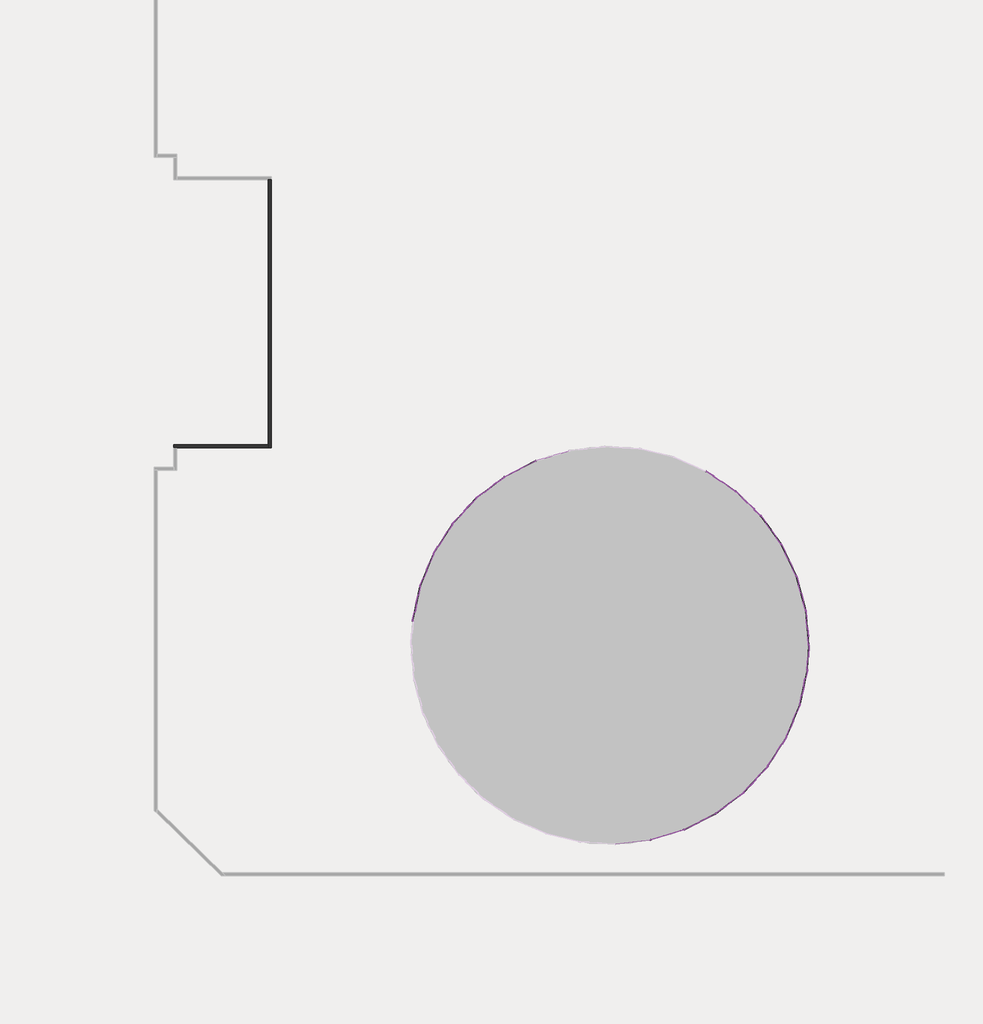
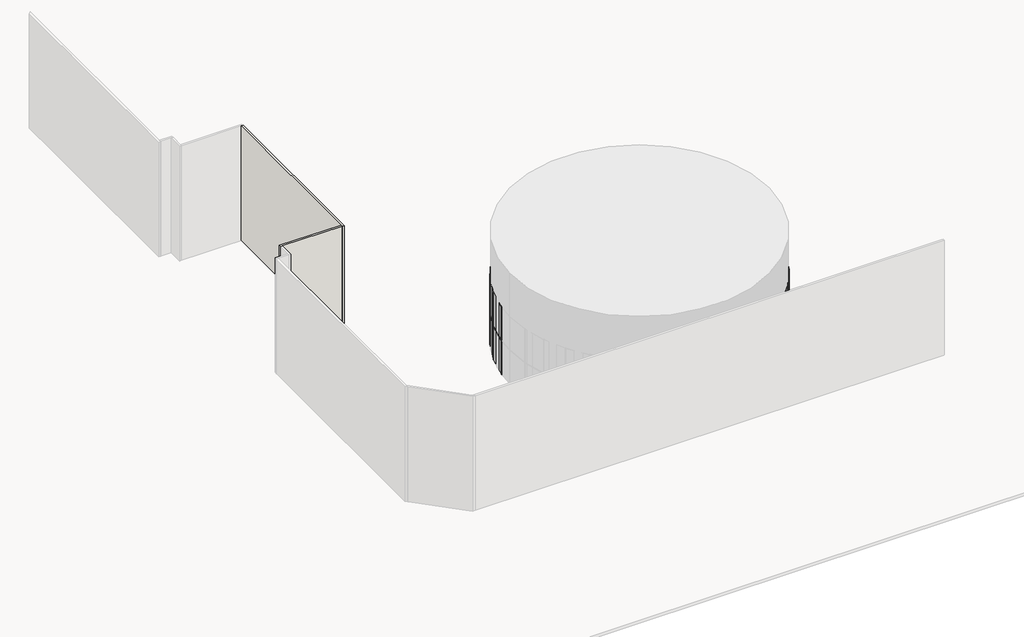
# One storey, part 2 of 4: 64 members, 40 plates, 2 walls.
"""IFC4 building model written with IfcOpenShell, lengths in millimetres."""

from ifc_helpers import new_model, si_unit, origin, place, context, project, spatial, faceted_brep, transform, mapped, element, save
from components import member_37831322, member_0f460398, member_e3690c8c, member_018dfd5b, plate_d439ce56, plate_01dbb522, plate_4c41d92a, plate_ebbde56a, plate_f02ba564, plate_a57f398c

model = new_model("IFC4")

# Units and contexts
model_context = context("Model", 3, world=origin())
ifc_project = project(units=[si_unit("LENGTHUNIT", "METRE", prefix="MILLI")], contexts=[model_context])

# Site, building, storey
site = spatial("IfcSite", under=ifc_project)
building = spatial("IfcBuilding", under=site)
storey = spatial("IfcBuildingStorey", under=building, Name="樓層 1", Elevation=0.0)

# Members
placement = place(None, origin())
member_shape = member_37831322(model_context)
element("IfcMember", 1, ObjectType="圓形豎框 : 25mm 半徑", at=placement, inside=storey, context=model_context, shape_type="MappedRepresentation", body=[
    mapped(member_shape, transform((-1710.0018523, -15272.7850723, 2800.0), x_axis=(-0.17664179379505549, 0.984275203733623, 0.0), y_axis=(0.984275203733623, 0.17664179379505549, 0.0), z_axis=(0.0, 0.0, -1.0))),
])
element("IfcMember", 2, ObjectType="圓形豎框 : 25mm 半徑", at=placement, inside=storey, context=model_context, shape_type="MappedRepresentation", body=[
    mapped(member_shape, transform((-2183.8011895, -13536.2614796, 2800.0), x_axis=(-0.3477282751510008, 0.9375953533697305, 0.0), y_axis=(0.9375953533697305, 0.3477282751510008, 0.0), z_axis=(0.0, 0.0, -1.0))),
])
element("IfcMember", 3, ObjectType="圓形豎框 : 25mm 半徑", at=placement, inside=storey, context=model_context, shape_type="MappedRepresentation", body=[
    mapped(member_shape, transform((-2956.892771, -11910.7371314, 2800.0), x_axis=(-0.5078788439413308, 0.8614285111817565, 0.0), y_axis=(0.8614285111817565, 0.5078788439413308, 0.0), z_axis=(0.0, 0.0, -1.0))),
])
element("IfcMember", 4, ObjectType="圓形豎框 : 25mm 半徑", at=placement, inside=storey, context=model_context, shape_type="MappedRepresentation", body=[
    mapped(member_shape, transform((-4004.9631816, -10447.3341061, 2800.0), x_axis=(-0.6520568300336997, 0.7581700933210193, 0.0), y_axis=(0.7581700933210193, 0.6520568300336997, 0.0), z_axis=(0.0, 0.0, -1.0))),
])
element("IfcMember", 5, ObjectType="圓形豎框 : 25mm 半徑", at=placement, inside=storey, context=model_context, shape_type="MappedRepresentation", body=[
    mapped(member_shape, transform((-5295.0510339, -9192.0758326, 2800.0), x_axis=(-0.7757278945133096, 0.6310675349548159, 0.0), y_axis=(0.6310675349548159, 0.7757278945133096, 0.0), z_axis=(0.0, 0.0, -1.0))),
])
element("IfcMember", 6, ObjectType="圓形豎框 : 25mm 半徑", at=placement, inside=storey, context=model_context, shape_type="MappedRepresentation", body=[
    mapped(member_shape, transform((-6786.5835908, -8184.4396721, 2800.0), x_axis=(-0.8750026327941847, 0.48411815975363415, 0.0), y_axis=(0.48411815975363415, 0.8750026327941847, 0.0), z_axis=(0.0, 0.0, -1.0))),
])
element("IfcMember", 7, ObjectType="圓形豎框 : 25mm 半徑", at=placement, inside=storey, context=model_context, shape_type="MappedRepresentation", body=[
    mapped(member_shape, transform((-15488.8767673, -7649.2610767, 2800.0), x_axis=(-0.9277297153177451, -0.373252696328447, 0.0), y_axis=(-0.373252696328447, 0.9277297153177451, 0.0), z_axis=(0.0, 0.0, -1.0))),
])
element("IfcMember", 8, ObjectType="圓形豎框 : 25mm 半徑", at=placement, inside=storey, context=model_context, shape_type="MappedRepresentation", body=[
    mapped(member_shape, transform((-17092.6390573, -8466.5410271, 2800.0), x_axis=(-0.8472093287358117, -0.5312592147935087, 0.0), y_axis=(-0.5312592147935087, 0.8472093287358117, 0.0), z_axis=(0.0, 0.0, -1.0))),
])
element("IfcMember", 9, ObjectType="圓形豎框 : 25mm 半徑", at=placement, inside=storey, context=model_context, shape_type="MappedRepresentation", body=[
    mapped(member_shape, transform((-18526.8167155, -9554.2608645, 2800.0), x_axis=(-0.7400445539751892, -0.6725578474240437, 0.0), y_axis=(-0.6725578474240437, 0.7400445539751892, 0.0), z_axis=(0.0, 0.0, -1.0))),
])
element("IfcMember", 10, ObjectType="圓形豎框 : 25mm 半徑", at=placement, inside=storey, context=model_context, shape_type="MappedRepresentation", body=[
    mapped(member_shape, transform((-19746.305439, -10878.2122432, 2800.0), x_axis=(-0.6096056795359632, -0.7927048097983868, 0.0), y_axis=(-0.7927048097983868, 0.6096056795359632, 0.0), z_axis=(0.0, 0.0, -1.0))),
])
element("IfcMember", 11, ObjectType="圓形豎框 : 25mm 半徑", at=placement, inside=storey, context=model_context, shape_type="MappedRepresentation", body=[
    mapped(member_shape, transform((-20712.7528044, -12396.7574319, 2800.0), x_axis=(-0.4599949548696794, -0.8879215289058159, 0.0), y_axis=(-0.8879215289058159, 0.4599949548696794, 0.0), z_axis=(0.0, 0.0, -1.0))),
])
element("IfcMember", 12, ObjectType="圓形豎框 : 25mm 半徑", at=placement, inside=storey, context=model_context, shape_type="MappedRepresentation", body=[
    mapped(member_shape, transform((-21395.7644357, -14062.1388031, 2800.0), x_axis=(-0.29591757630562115, -0.9552134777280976, 0.0), y_axis=(-0.9552134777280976, 0.29591757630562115, 0.0), z_axis=(0.0, 0.0, -1.0))),
])
element("IfcMember", 13, ObjectType="圓形豎框 : 25mm 半徑", at=placement, inside=storey, context=model_context, shape_type="MappedRepresentation", body=[
    mapped(member_shape, transform((-21773.8598955, -15821.9807912, 2800.0), x_axis=(-0.12253371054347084, -0.992464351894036, 0.0), y_axis=(-0.992464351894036, 0.12253371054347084, 0.0), z_axis=(0.0, 0.0, -1.0))),
])
element("IfcMember", 14, ObjectType="圓形豎框 : 25mm 半徑", at=placement, inside=storey, context=model_context, shape_type="MappedRepresentation", body=[
    mapped(member_shape, transform((-9634.7745786, -27003.2657656, 2800.0), x_axis=(0.9790733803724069, 0.203507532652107, 0.0), y_axis=(0.203507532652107, -0.9790733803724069, 0.0), z_axis=(0.0, 0.0, -1.0))),
])
element("IfcMember", 15, ObjectType="圓形豎框 : 25mm 半徑", at=placement, inside=storey, context=model_context, shape_type="MappedRepresentation", body=[
    mapped(member_shape, transform((-7911.8653274, -26482.1288236, 2800.0), x_axis=(0.9277297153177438, 0.37325269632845, 0.0), y_axis=(0.37325269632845, -0.9277297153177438, 0.0), z_axis=(0.0, 0.0, -1.0))),
])
element("IfcMember", 16, ObjectType="圓形豎框 : 25mm 半徑", at=placement, inside=storey, context=model_context, shape_type="MappedRepresentation", body=[
    mapped(member_shape, transform((-6308.1030374, -25664.8488732, 2800.0), x_axis=(0.8472093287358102, 0.5312592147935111, 0.0), y_axis=(0.5312592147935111, -0.8472093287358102, 0.0), z_axis=(0.0, 0.0, -1.0))),
])
element("IfcMember", 17, ObjectType="圓形豎框 : 25mm 半徑", at=placement, inside=storey, context=model_context, shape_type="MappedRepresentation", body=[
    mapped(member_shape, transform((-4873.9253792, -24577.1290358, 2800.0), x_axis=(0.7400445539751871, 0.672557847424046, 0.0), y_axis=(0.672557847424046, -0.7400445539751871, 0.0), z_axis=(0.0, 0.0, -1.0))),
])
element("IfcMember", 18, ObjectType="圓形豎框 : 25mm 半徑", at=placement, inside=storey, context=model_context, shape_type="MappedRepresentation", body=[
    mapped(member_shape, transform((-3654.4366557, -23253.1776571, 2800.0), x_axis=(0.6096056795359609, 0.7927048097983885, 0.0), y_axis=(0.7927048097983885, -0.6096056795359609, 0.0), z_axis=(0.0, 0.0, -1.0))),
])
element("IfcMember", 19, ObjectType="圓形豎框 : 25mm 半徑", at=placement, inside=storey, context=model_context, shape_type="MappedRepresentation", body=[
    mapped(member_shape, transform((-2687.9892904, -21734.6324684, 2800.0), x_axis=(0.4599949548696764, 0.8879215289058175, 0.0), y_axis=(0.8879215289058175, -0.4599949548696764, 0.0), z_axis=(0.0, 0.0, -1.0))),
])
element("IfcMember", 20, ObjectType="圓形豎框 : 25mm 半徑", at=placement, inside=storey, context=model_context, shape_type="MappedRepresentation", body=[
    mapped(member_shape, transform((-2004.977659, -20069.2510972, 2800.0), x_axis=(0.2959175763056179, 0.9552134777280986, 0.0), y_axis=(0.9552134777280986, -0.2959175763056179, 0.0), z_axis=(0.0, 0.0, -1.0))),
])
element("IfcMember", 21, ObjectType="圓形豎框 : 25mm 半徑", at=placement, inside=storey, context=model_context, shape_type="MappedRepresentation", body=[
    mapped(member_shape, transform((-1626.8821992, -18309.4091091, 2800.0), x_axis=(0.12253371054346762, 0.9924643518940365, 0.0), y_axis=(0.9924643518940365, -0.12253371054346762, 0.0), z_axis=(0.0, 0.0, -1.0))),
])
member_2_shape = member_0f460398(model_context)
element("IfcMember", 22, ObjectType="圓形豎框 : 25mm 半徑", at=placement, inside=storey, context=model_context, shape_type="MappedRepresentation", body=[
    mapped(member_2_shape, transform((-2177.2206431, -13560.3798628, 2800.0), x_axis=(0.0, 0.0, 1.0), y_axis=(0.9647353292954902, 0.2632218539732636, 0.0), z_axis=(-0.2632218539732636, 0.9647353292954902, 0.0))),
])
element("IfcMember", 23, ObjectType="圓形豎框 : 25mm 半徑", at=placement, inside=storey, context=model_context, shape_type="MappedRepresentation", body=[
    mapped(member_2_shape, transform((-2946.1553879, -11933.3138584, 2800.0), x_axis=(0.0, 0.0, 1.0), y_axis=(0.9030690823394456, 0.42949532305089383, 0.0), z_axis=(-0.42949532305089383, 0.9030690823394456, 0.0))),
])
element("IfcMember", 24, ObjectType="圓形豎框 : 25mm 半徑", at=placement, inside=storey, context=model_context, shape_type="MappedRepresentation", body=[
    mapped(member_2_shape, transform((-3990.4066481, -10467.6591481, 2800.0), x_axis=(0.0, 0.0, 1.0), y_axis=(0.8130016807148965, 0.5822613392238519, 0.0), z_axis=(-0.5822613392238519, 0.8130016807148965, 0.0))),
])
element("IfcMember", 25, ObjectType="圓形豎框 : 25mm 半徑", at=placement, inside=storey, context=model_context, shape_type="MappedRepresentation", body=[
    mapped(member_2_shape, transform((-5277.1331471, -9209.5099753, 2800.0), x_axis=(0.0, 0.0, 1.0), y_axis=(0.6973657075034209, 0.7167154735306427, 0.0), z_axis=(-0.7167154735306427, 0.6973657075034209, 0.0))),
])
element("IfcMember", 26, ObjectType="圓形豎框 : 25mm 半徑", at=placement, inside=storey, context=model_context, shape_type="MappedRepresentation", body=[
    mapped(member_2_shape, transform((-6765.8678608, -8198.4346188, 2800.0), x_axis=(0.0, 0.0, 1.0), y_axis=(0.5597978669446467, 0.8286291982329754, 0.0), z_axis=(-0.8286291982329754, 0.5597978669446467, 0.0))),
])
element("IfcMember", 27, ObjectType="圓形豎框 : 25mm 半徑", at=placement, inside=storey, context=model_context, shape_type="MappedRepresentation", body=[
    mapped(member_2_shape, transform((-15464.9474722, -7642.0230636, 2800.0), x_axis=(0.0, 0.0, 1.0), y_axis=(-0.2895205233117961, 0.9571718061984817, 0.0), z_axis=(-0.9571718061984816, -0.28952052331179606, 0.0))),
])
element("IfcMember", 28, ObjectType="圓形豎框 : 25mm 半徑", at=placement, inside=storey, context=model_context, shape_type="MappedRepresentation", body=[
    mapped(member_2_shape, transform((-17070.364581, -8455.1899167, 2800.0), x_axis=(0.0, 0.0, 1.0), y_axis=(-0.4540444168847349, 0.8909790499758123, 0.0), z_axis=(-0.8909790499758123, -0.4540444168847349, 0.0))),
])
element("IfcMember", 29, ObjectType="圓形豎框 : 25mm 半徑", at=placement, inside=storey, context=model_context, shape_type="MappedRepresentation", body=[
    mapped(member_2_shape, transform((-18506.8975814, -9539.1536446, 2800.0), x_axis=(0.0, 0.0, 1.0), y_axis=(-0.6042887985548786, 0.796765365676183, 0.0), z_axis=(-0.7967653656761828, -0.6042887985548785, 0.0))),
])
element("IfcMember", 30, ObjectType="圓形豎框 : 25mm 半徑", at=placement, inside=storey, context=model_context, shape_type="MappedRepresentation", body=[
    mapped(member_2_shape, transform((-19729.3680956, -10859.8240297, 2800.0), x_axis=(0.0, 0.0, 1.0), y_axis=(-0.7355285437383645, 0.677493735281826, 0.0), z_axis=(-0.677493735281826, -0.7355285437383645, 0.0))),
])
element("IfcMember", 31, ObjectType="圓形豎框 : 25mm 半徑", at=placement, inside=storey, context=model_context, shape_type="MappedRepresentation", body=[
    mapped(member_2_shape, transform((-20699.3299243, -12375.6665265, 2800.0), x_axis=(0.0, 0.0, 1.0), y_axis=(-0.8436362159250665, 0.5369152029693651, 0.0), z_axis=(-0.5369152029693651, -0.8436362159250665, 0.0))),
])
element("IfcMember", 32, ObjectType="圓形豎框 : 25mm 半徑", at=placement, inside=storey, context=model_context, shape_type="MappedRepresentation", body=[
    mapped(member_2_shape, transform((-21386.278163, -14039.0085063, 2800.0), x_axis=(0.0, 0.0, 1.0), y_axis=(-0.9252118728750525, 0.37945090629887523, 0.0), z_axis=(-0.37945090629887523, -0.9252118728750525, 0.0))),
])
element("IfcMember", 33, ObjectType="圓形豎框 : 25mm 半徑", at=placement, inside=storey, context=model_context, shape_type="MappedRepresentation", body=[
    mapped(member_2_shape, transform((-21768.6085697, -15797.5385414, 2800.0), x_axis=(0.0, 0.0, 1.0), y_axis=(-0.9776899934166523, 0.2100530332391, 0.0), z_axis=(-0.2100530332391, -0.9776899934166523, 0.0))),
])
element("IfcMember", 34, ObjectType="圓形豎框 : 25mm 半徑", at=placement, inside=storey, context=model_context, shape_type="MappedRepresentation", body=[
    mapped(member_2_shape, transform((-9659.606126, -27006.1630487, 2800.0), x_axis=(0.0, 0.0, 1.0), y_axis=(0.11589132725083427, -0.9932618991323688, 0.0), z_axis=(0.9932618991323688, 0.11589132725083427, 0.0))),
])
element("IfcMember", 35, ObjectType="圓形豎框 : 25mm 半徑", at=placement, inside=storey, context=model_context, shape_type="MappedRepresentation", body=[
    mapped(member_2_shape, transform((-7935.7946226, -26489.3668367, 2800.0), x_axis=(0.0, 0.0, 1.0), y_axis=(0.2895205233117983, -0.9571718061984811, 0.0), z_axis=(0.9571718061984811, 0.2895205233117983, 0.0))),
])
element("IfcMember", 36, ObjectType="圓形豎框 : 25mm 半徑", at=placement, inside=storey, context=model_context, shape_type="MappedRepresentation", body=[
    mapped(member_2_shape, transform((-6330.3775137, -25676.1999836, 2800.0), x_axis=(0.0, 0.0, 1.0), y_axis=(0.45404441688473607, -0.8909790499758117, 0.0), z_axis=(0.8909790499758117, 0.45404441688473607, 0.0))),
])
element("IfcMember", 37, ObjectType="圓形豎框 : 25mm 半徑", at=placement, inside=storey, context=model_context, shape_type="MappedRepresentation", body=[
    mapped(member_2_shape, transform((-4893.8445134, -24592.2362558, 2800.0), x_axis=(0.0, 0.0, 1.0), y_axis=(0.6042887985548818, -0.7967653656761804, 0.0), z_axis=(0.7967653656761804, 0.6042887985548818, 0.0))),
])
element("IfcMember", 38, ObjectType="圓形豎框 : 25mm 半徑", at=placement, inside=storey, context=model_context, shape_type="MappedRepresentation", body=[
    mapped(member_2_shape, transform((-3671.3739991, -23271.5658707, 2800.0), x_axis=(0.0, 0.0, 1.0), y_axis=(0.7355285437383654, -0.677493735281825, 0.0), z_axis=(0.677493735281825, 0.7355285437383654, 0.0))),
])
element("IfcMember", 39, ObjectType="圓形豎框 : 25mm 半徑", at=placement, inside=storey, context=model_context, shape_type="MappedRepresentation", body=[
    mapped(member_2_shape, transform((-2701.4121705, -21755.7233738, 2800.0), x_axis=(0.0, 0.0, 1.0), y_axis=(0.8436362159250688, -0.5369152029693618, 0.0), z_axis=(0.5369152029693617, 0.8436362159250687, 0.0))),
])
element("IfcMember", 40, ObjectType="圓形豎框 : 25mm 半徑", at=placement, inside=storey, context=model_context, shape_type="MappedRepresentation", body=[
    mapped(member_2_shape, transform((-2014.4639317, -20092.3813941, 2800.0), x_axis=(0.0, 0.0, 1.0), y_axis=(0.9252118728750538, -0.379450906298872, 0.0), z_axis=(0.37945090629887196, 0.9252118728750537, 0.0))),
])
element("IfcMember", 41, ObjectType="圓形豎框 : 25mm 半徑", at=placement, inside=storey, context=model_context, shape_type="MappedRepresentation", body=[
    mapped(member_2_shape, transform((-1632.133525, -18333.8513589, 2800.0), x_axis=(0.0, 0.0, 1.0), y_axis=(0.9776899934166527, -0.2100530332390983, 0.0), z_axis=(0.2100530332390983, 0.9776899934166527, 0.0))),
])
element("IfcMember", 42, ObjectType="圓形豎框 : 25mm 半徑", at=placement, inside=storey, context=model_context, shape_type="MappedRepresentation", body=[
    mapped(member_shape, transform((-1710.0018523, -15272.7850723, 0.0), x_axis=(-0.17664179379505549, 0.984275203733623, 0.0), y_axis=(0.984275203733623, 0.17664179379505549, 0.0), z_axis=(0.0, 0.0, -1.0))),
])
element("IfcMember", 43, ObjectType="圓形豎框 : 25mm 半徑", at=placement, inside=storey, context=model_context, shape_type="MappedRepresentation", body=[
    mapped(member_shape, transform((-2183.8011895, -13536.2614796, 0.0), x_axis=(-0.3477282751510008, 0.9375953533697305, 0.0), y_axis=(0.9375953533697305, 0.3477282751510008, 0.0), z_axis=(0.0, 0.0, -1.0))),
])
element("IfcMember", 44, ObjectType="圓形豎框 : 25mm 半徑", at=placement, inside=storey, context=model_context, shape_type="MappedRepresentation", body=[
    mapped(member_shape, transform((-2956.892771, -11910.7371314, 0.0), x_axis=(-0.5078788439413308, 0.8614285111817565, 0.0), y_axis=(0.8614285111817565, 0.5078788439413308, 0.0), z_axis=(0.0, 0.0, -1.0))),
])
element("IfcMember", 45, ObjectType="圓形豎框 : 25mm 半徑", at=placement, inside=storey, context=model_context, shape_type="MappedRepresentation", body=[
    mapped(member_shape, transform((-4004.9631816, -10447.3341061, 0.0), x_axis=(-0.6520568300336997, 0.7581700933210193, 0.0), y_axis=(0.7581700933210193, 0.6520568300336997, 0.0), z_axis=(0.0, 0.0, -1.0))),
])
element("IfcMember", 46, ObjectType="圓形豎框 : 25mm 半徑", at=placement, inside=storey, context=model_context, shape_type="MappedRepresentation", body=[
    mapped(member_shape, transform((-5295.0510339, -9192.0758326, 0.0), x_axis=(-0.7757278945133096, 0.6310675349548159, 0.0), y_axis=(0.6310675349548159, 0.7757278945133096, 0.0), z_axis=(0.0, 0.0, -1.0))),
])
element("IfcMember", 47, ObjectType="圓形豎框 : 25mm 半徑", at=placement, inside=storey, context=model_context, shape_type="MappedRepresentation", body=[
    mapped(member_shape, transform((-6786.5835908, -8184.4396721, 0.0), x_axis=(-0.8750026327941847, 0.48411815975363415, 0.0), y_axis=(0.48411815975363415, 0.8750026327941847, 0.0), z_axis=(0.0, 0.0, -1.0))),
])
element("IfcMember", 48, ObjectType="圓形豎框 : 25mm 半徑", at=placement, inside=storey, context=model_context, shape_type="MappedRepresentation", body=[
    mapped(member_shape, transform((-15488.8767673, -7649.2610767, 0.0), x_axis=(-0.9277297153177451, -0.373252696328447, 0.0), y_axis=(-0.373252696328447, 0.9277297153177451, 0.0), z_axis=(0.0, 0.0, -1.0))),
])
element("IfcMember", 49, ObjectType="圓形豎框 : 25mm 半徑", at=placement, inside=storey, context=model_context, shape_type="MappedRepresentation", body=[
    mapped(member_shape, transform((-17092.6390573, -8466.5410271, 0.0), x_axis=(-0.8472093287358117, -0.5312592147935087, 0.0), y_axis=(-0.5312592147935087, 0.8472093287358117, 0.0), z_axis=(0.0, 0.0, -1.0))),
])
element("IfcMember", 50, ObjectType="圓形豎框 : 25mm 半徑", at=placement, inside=storey, context=model_context, shape_type="MappedRepresentation", body=[
    mapped(member_shape, transform((-18526.8167155, -9554.2608645, 0.0), x_axis=(-0.7400445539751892, -0.6725578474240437, 0.0), y_axis=(-0.6725578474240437, 0.7400445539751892, 0.0), z_axis=(0.0, 0.0, -1.0))),
])
element("IfcMember", 51, ObjectType="圓形豎框 : 25mm 半徑", at=placement, inside=storey, context=model_context, shape_type="MappedRepresentation", body=[
    mapped(member_shape, transform((-19746.305439, -10878.2122432, 0.0), x_axis=(-0.6096056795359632, -0.7927048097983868, 0.0), y_axis=(-0.7927048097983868, 0.6096056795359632, 0.0), z_axis=(0.0, 0.0, -1.0))),
])
element("IfcMember", 52, ObjectType="圓形豎框 : 25mm 半徑", at=placement, inside=storey, context=model_context, shape_type="MappedRepresentation", body=[
    mapped(member_shape, transform((-20712.7528044, -12396.7574319, 0.0), x_axis=(-0.4599949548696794, -0.8879215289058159, 0.0), y_axis=(-0.8879215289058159, 0.4599949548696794, 0.0), z_axis=(0.0, 0.0, -1.0))),
])
element("IfcMember", 53, ObjectType="圓形豎框 : 25mm 半徑", at=placement, inside=storey, context=model_context, shape_type="MappedRepresentation", body=[
    mapped(member_shape, transform((-21395.7644357, -14062.1388031, 0.0), x_axis=(-0.29591757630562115, -0.9552134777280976, 0.0), y_axis=(-0.9552134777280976, 0.29591757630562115, 0.0), z_axis=(0.0, 0.0, -1.0))),
])
element("IfcMember", 54, ObjectType="圓形豎框 : 25mm 半徑", at=placement, inside=storey, context=model_context, shape_type="MappedRepresentation", body=[
    mapped(member_shape, transform((-21773.8598955, -15821.9807912, 0.0), x_axis=(-0.12253371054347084, -0.992464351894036, 0.0), y_axis=(-0.992464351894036, 0.12253371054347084, 0.0), z_axis=(0.0, 0.0, -1.0))),
])
element("IfcMember", 55, ObjectType="圓形豎框 : 25mm 半徑", at=placement, inside=storey, context=model_context, shape_type="MappedRepresentation", body=[
    mapped(member_shape, transform((-9634.7745786, -27003.2657656, 0.0), x_axis=(0.9790733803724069, 0.203507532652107, 0.0), y_axis=(0.203507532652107, -0.9790733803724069, 0.0), z_axis=(0.0, 0.0, -1.0))),
])
element("IfcMember", 56, ObjectType="圓形豎框 : 25mm 半徑", at=placement, inside=storey, context=model_context, shape_type="MappedRepresentation", body=[
    mapped(member_shape, transform((-7911.8653274, -26482.1288236, 0.0), x_axis=(0.9277297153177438, 0.37325269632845, 0.0), y_axis=(0.37325269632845, -0.9277297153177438, 0.0), z_axis=(0.0, 0.0, -1.0))),
])
element("IfcMember", 57, ObjectType="圓形豎框 : 25mm 半徑", at=placement, inside=storey, context=model_context, shape_type="MappedRepresentation", body=[
    mapped(member_shape, transform((-6308.1030374, -25664.8488732, 0.0), x_axis=(0.8472093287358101, 0.5312592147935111, 0.0), y_axis=(0.5312592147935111, -0.8472093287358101, 0.0), z_axis=(0.0, 0.0, -1.0))),
])
element("IfcMember", 58, ObjectType="圓形豎框 : 25mm 半徑", at=placement, inside=storey, context=model_context, shape_type="MappedRepresentation", body=[
    mapped(member_shape, transform((-4873.9253792, -24577.1290358, 0.0), x_axis=(0.7400445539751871, 0.672557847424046, 0.0), y_axis=(0.672557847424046, -0.7400445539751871, 0.0), z_axis=(0.0, 0.0, -1.0))),
])
element("IfcMember", 59, ObjectType="圓形豎框 : 25mm 半徑", at=placement, inside=storey, context=model_context, shape_type="MappedRepresentation", body=[
    mapped(member_shape, transform((-3654.4366557, -23253.1776571, 0.0), x_axis=(0.6096056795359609, 0.7927048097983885, 0.0), y_axis=(0.7927048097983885, -0.6096056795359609, 0.0), z_axis=(0.0, 0.0, -1.0))),
])
element("IfcMember", 60, ObjectType="圓形豎框 : 25mm 半徑", at=placement, inside=storey, context=model_context, shape_type="MappedRepresentation", body=[
    mapped(member_shape, transform((-2687.9892904, -21734.6324684, 0.0), x_axis=(0.4599949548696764, 0.8879215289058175, 0.0), y_axis=(0.8879215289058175, -0.4599949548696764, 0.0), z_axis=(0.0, 0.0, -1.0))),
])
element("IfcMember", 61, ObjectType="圓形豎框 : 25mm 半徑", at=placement, inside=storey, context=model_context, shape_type="MappedRepresentation", body=[
    mapped(member_shape, transform((-2004.977659, -20069.2510972, 0.0), x_axis=(0.2959175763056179, 0.9552134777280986, 0.0), y_axis=(0.9552134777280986, -0.2959175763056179, 0.0), z_axis=(0.0, 0.0, -1.0))),
])
element("IfcMember", 62, ObjectType="圓形豎框 : 25mm 半徑", at=placement, inside=storey, context=model_context, shape_type="MappedRepresentation", body=[
    mapped(member_shape, transform((-1626.8821992, -18309.4091091, 0.0), x_axis=(0.1225337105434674, 0.9924643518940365, 0.0), y_axis=(0.9924643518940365, -0.1225337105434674, 0.0), z_axis=(0.0, 0.0, -1.0))),
])
member_3_shape = member_e3690c8c(model_context)
element("IfcMember", 63, ObjectType="圓形豎框 : 25mm 半徑", at=placement, inside=storey, context=model_context, shape_type="MappedRepresentation", body=[
    mapped(member_3_shape, transform((-1707.7850982, -15297.6865984, 2800.0), x_axis=(0.0, 0.0, 1.0), y_axis=(0.99606104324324, 0.08867016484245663, 0.0), z_axis=(-0.08867016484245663, 0.99606104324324, 0.0))),
])
member_4_shape = member_018dfd5b(model_context)
element("IfcMember", 64, ObjectType="圓形豎框 : 25mm 半徑", at=placement, inside=storey, context=model_context, shape_type="MappedRepresentation", body=[
    mapped(member_4_shape, transform((-1550.3955556, -17065.6949502, 2800.0), x_axis=(0.0, 0.0, 1.0), y_axis=(0.9981143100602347, -0.06138260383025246, 0.0), z_axis=(0.06138260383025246, 0.9981143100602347, 0.0))),
])

# Plates
plate_shape = plate_d439ce56(model_context)
element("IfcPlate", 65, ObjectType="系統嵌板 : 玻璃 1.0cm", at=placement, inside=storey, context=model_context, shape_type="MappedRepresentation", body=[
    mapped(plate_shape, transform((-1629.0903269, -16181.6907743, 0.0), x_axis=(-0.08867016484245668, 0.99606104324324, 0.0), y_axis=(-0.99606104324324, -0.08867016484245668, 0.0), z_axis=(0.0, 0.0, 1.0))),
])
plate_2_shape = plate_01dbb522(model_context)
element("IfcPlate", 66, ObjectType="系統嵌板 : 玻璃 1.0cm", at=placement, inside=storey, context=model_context, shape_type="MappedRepresentation", body=[
    mapped(plate_2_shape, transform((-8773.319953, -26742.6972946, 0.0), x_axis=(0.9571718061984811, 0.28952052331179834, 0.0), y_axis=(-0.28952052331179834, 0.9571718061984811, 0.0), z_axis=(0.0, 0.0, 1.0))),
])
element("IfcPlate", 67, ObjectType="系統嵌板 : 玻璃 1.0cm", at=placement, inside=storey, context=model_context, shape_type="MappedRepresentation", body=[
    mapped(plate_2_shape, transform((-7109.9841824, -26073.4888484, 0.0), x_axis=(0.8909790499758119, 0.45404441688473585, 0.0), y_axis=(-0.45404441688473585, 0.8909790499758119, 0.0), z_axis=(0.0, 0.0, 1.0))),
])
element("IfcPlate", 68, ObjectType="系統嵌板 : 玻璃 1.0cm", at=placement, inside=storey, context=model_context, shape_type="MappedRepresentation", body=[
    mapped(plate_2_shape, transform((-5591.0142083, -25120.9889545, 0.0), x_axis=(0.7967653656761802, 0.6042887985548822, 0.0), y_axis=(-0.6042887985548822, 0.7967653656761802, 0.0), z_axis=(0.0, 0.0, 1.0))),
])
element("IfcPlate", 69, ObjectType="系統嵌板 : 玻璃 1.0cm", at=placement, inside=storey, context=model_context, shape_type="MappedRepresentation", body=[
    mapped(plate_2_shape, transform((-4264.1810175, -23915.1533465, 0.0), x_axis=(0.677493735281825, 0.7355285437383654, 0.0), y_axis=(-0.7355285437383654, 0.677493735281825, 0.0), z_axis=(0.0, 0.0, 1.0))),
])
element("IfcPlate", 70, ObjectType="系統嵌板 : 玻璃 1.0cm", at=placement, inside=storey, context=model_context, shape_type="MappedRepresentation", body=[
    mapped(plate_2_shape, transform((-3171.212973, -22493.9050628, 0.0), x_axis=(0.5369152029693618, 0.8436362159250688, 0.0), y_axis=(-0.8436362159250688, 0.5369152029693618, 0.0), z_axis=(0.0, 0.0, 1.0))),
])
element("IfcPlate", 71, ObjectType="系統嵌板 : 玻璃 1.0cm", at=placement, inside=storey, context=model_context, shape_type="MappedRepresentation", body=[
    mapped(plate_2_shape, transform((-2346.4834747, -20901.9417828, 0.0), x_axis=(0.379450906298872, 0.9252118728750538, 0.0), y_axis=(-0.9252118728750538, 0.379450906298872, 0.0), z_axis=(0.0, 0.0, 1.0))),
])
element("IfcPlate", 72, ObjectType="系統嵌板 : 玻璃 1.0cm", at=placement, inside=storey, context=model_context, shape_type="MappedRepresentation", body=[
    mapped(plate_2_shape, transform((-1815.9299291, -19189.3301032, 0.0), x_axis=(0.2100530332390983, 0.9776899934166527, 0.0), y_axis=(-0.9776899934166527, 0.2100530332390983, 0.0), z_axis=(0.0, 0.0, 1.0))),
])
element("IfcPlate", 73, ObjectType="系統嵌板 : 玻璃 1.0cm", at=placement, inside=storey, context=model_context, shape_type="MappedRepresentation", body=[
    mapped(plate_2_shape, transform((-1946.9015209, -14404.523276, 0.0), x_axis=(-0.26322185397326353, 0.9647353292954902, 0.0), y_axis=(-0.9647353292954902, -0.26322185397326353, 0.0), z_axis=(0.0, 0.0, 1.0))),
])
element("IfcPlate", 74, ObjectType="系統嵌板 : 玻璃 1.0cm", at=placement, inside=storey, context=model_context, shape_type="MappedRepresentation", body=[
    mapped(plate_2_shape, transform((-2570.3469802, -12723.4993055, 0.0), x_axis=(-0.42949532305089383, 0.9030690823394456, 0.0), y_axis=(-0.9030690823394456, -0.42949532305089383, 0.0), z_axis=(0.0, 0.0, 1.0))),
])
element("IfcPlate", 75, ObjectType="系統嵌板 : 玻璃 1.0cm", at=placement, inside=storey, context=model_context, shape_type="MappedRepresentation", body=[
    mapped(plate_2_shape, transform((-3480.9279763, -11179.0356187, 0.0), x_axis=(-0.5822613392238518, 0.8130016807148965, 0.0), y_axis=(-0.8130016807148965, -0.5822613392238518, 0.0), z_axis=(0.0, 0.0, 1.0))),
])
element("IfcPlate", 76, ObjectType="系統嵌板 : 玻璃 1.0cm", at=placement, inside=storey, context=model_context, shape_type="MappedRepresentation", body=[
    mapped(plate_2_shape, transform((-4650.0071078, -9819.7049693, 0.0), x_axis=(-0.7167154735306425, 0.6973657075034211, 0.0), y_axis=(-0.6973657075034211, -0.7167154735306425, 0.0), z_axis=(0.0, 0.0, 1.0))),
])
element("IfcPlate", 77, ObjectType="系統嵌板 : 玻璃 1.0cm", at=placement, inside=storey, context=model_context, shape_type="MappedRepresentation", body=[
    mapped(plate_2_shape, transform((-6040.8173123, -8688.2577523, 0.0), x_axis=(-0.8286291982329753, 0.559797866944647, 0.0), y_axis=(-0.559797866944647, -0.8286291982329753, 0.0), z_axis=(0.0, 0.0, 1.0))),
])
element("IfcPlate", 78, ObjectType="系統嵌板 : 玻璃 1.0cm", at=placement, inside=storey, context=model_context, shape_type="MappedRepresentation", body=[
    mapped(plate_2_shape, transform((-16290.7579123, -8057.9010519, 0.0), x_axis=(-0.8909790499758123, -0.45404441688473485, 0.0), y_axis=(0.45404441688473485, -0.8909790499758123, 0.0), z_axis=(0.0, 0.0, 1.0))),
])
element("IfcPlate", 79, ObjectType="系統嵌板 : 玻璃 1.0cm", at=placement, inside=storey, context=model_context, shape_type="MappedRepresentation", body=[
    mapped(plate_2_shape, transform((-17809.7278864, -9010.4009458, 0.0), x_axis=(-0.7967653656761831, -0.6042887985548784, 0.0), y_axis=(0.6042887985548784, -0.7967653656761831, 0.0), z_axis=(0.0, 0.0, 1.0))),
])
element("IfcPlate", 80, ObjectType="系統嵌板 : 玻璃 1.0cm", at=placement, inside=storey, context=model_context, shape_type="MappedRepresentation", body=[
    mapped(plate_2_shape, transform((-19136.5610773, -10216.2365539, 0.0), x_axis=(-0.6774937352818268, -0.7355285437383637, 0.0), y_axis=(0.7355285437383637, -0.6774937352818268, 0.0), z_axis=(0.0, 0.0, 1.0))),
])
element("IfcPlate", 81, ObjectType="系統嵌板 : 玻璃 1.0cm", at=placement, inside=storey, context=model_context, shape_type="MappedRepresentation", body=[
    mapped(plate_2_shape, transform((-20229.5291217, -11637.4848376, 0.0), x_axis=(-0.536915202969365, -0.8436362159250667, 0.0), y_axis=(0.8436362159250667, -0.536915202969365, 0.0), z_axis=(0.0, 0.0, 1.0))),
])
element("IfcPlate", 82, ObjectType="系統嵌板 : 玻璃 1.0cm", at=placement, inside=storey, context=model_context, shape_type="MappedRepresentation", body=[
    mapped(plate_2_shape, transform((-21054.25862, -13229.4481175, 0.0), x_axis=(-0.3794509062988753, -0.9252118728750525, 0.0), y_axis=(0.9252118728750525, -0.3794509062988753, 0.0), z_axis=(0.0, 0.0, 1.0))),
])
element("IfcPlate", 83, ObjectType="系統嵌板 : 玻璃 1.0cm", at=placement, inside=storey, context=model_context, shape_type="MappedRepresentation", body=[
    mapped(plate_2_shape, transform((-21584.8121656, -14942.0597972, 0.0), x_axis=(-0.2100530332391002, -0.9776899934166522, 0.0), y_axis=(0.9776899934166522, -0.2100530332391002, 0.0), z_axis=(0.0, 0.0, 1.0))),
])
plate_3_shape = plate_4c41d92a(model_context)
element("IfcPlate", 84, ObjectType="系統嵌板 : 玻璃 1.0cm", at=placement, inside=storey, context=model_context, shape_type="MappedRepresentation", body=[
    mapped(plate_3_shape, transform((-1587.8715949, -17675.0756008, 0.0), x_axis=(0.061382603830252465, 0.9981143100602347, 0.0), y_axis=(-0.9981143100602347, 0.061382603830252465, 0.0), z_axis=(0.0, 0.0, 1.0))),
])
plate_4_shape = plate_ebbde56a(model_context)
element("IfcPlate", 85, ObjectType="系統嵌板 : 玻璃 1.0cm", at=placement, inside=storey, context=model_context, shape_type="MappedRepresentation", body=[
    mapped(plate_4_shape, transform((-1629.0903269, -16181.6907743, 2825.0), x_axis=(-0.08867016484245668, 0.99606104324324, 0.0), y_axis=(-0.99606104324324, -0.08867016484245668, 0.0), z_axis=(0.0, 0.0, 1.0))),
])
plate_5_shape = plate_f02ba564(model_context)
element("IfcPlate", 86, ObjectType="系統嵌板 : 玻璃 1.0cm", at=placement, inside=storey, context=model_context, shape_type="MappedRepresentation", body=[
    mapped(plate_5_shape, transform((-8773.319953, -26742.6972946, 2825.0), x_axis=(0.9571718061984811, 0.28952052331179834, 0.0), y_axis=(-0.28952052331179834, 0.9571718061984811, 0.0), z_axis=(0.0, 0.0, 1.0))),
])
element("IfcPlate", 87, ObjectType="系統嵌板 : 玻璃 1.0cm", at=placement, inside=storey, context=model_context, shape_type="MappedRepresentation", body=[
    mapped(plate_5_shape, transform((-7109.9841824, -26073.4888484, 2825.0), x_axis=(0.8909790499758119, 0.45404441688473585, 0.0), y_axis=(-0.45404441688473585, 0.8909790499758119, 0.0), z_axis=(0.0, 0.0, 1.0))),
])
element("IfcPlate", 88, ObjectType="系統嵌板 : 玻璃 1.0cm", at=placement, inside=storey, context=model_context, shape_type="MappedRepresentation", body=[
    mapped(plate_5_shape, transform((-5591.0142083, -25120.9889545, 2825.0), x_axis=(0.7967653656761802, 0.6042887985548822, 0.0), y_axis=(-0.6042887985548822, 0.7967653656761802, 0.0), z_axis=(0.0, 0.0, 1.0))),
])
element("IfcPlate", 89, ObjectType="系統嵌板 : 玻璃 1.0cm", at=placement, inside=storey, context=model_context, shape_type="MappedRepresentation", body=[
    mapped(plate_5_shape, transform((-4264.1810175, -23915.1533465, 2825.0), x_axis=(0.677493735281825, 0.7355285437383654, 0.0), y_axis=(-0.7355285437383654, 0.677493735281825, 0.0), z_axis=(0.0, 0.0, 1.0))),
])
element("IfcPlate", 90, ObjectType="系統嵌板 : 玻璃 1.0cm", at=placement, inside=storey, context=model_context, shape_type="MappedRepresentation", body=[
    mapped(plate_5_shape, transform((-3171.212973, -22493.9050628, 2825.0), x_axis=(0.5369152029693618, 0.8436362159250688, 0.0), y_axis=(-0.8436362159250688, 0.5369152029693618, 0.0), z_axis=(0.0, 0.0, 1.0))),
])
element("IfcPlate", 91, ObjectType="系統嵌板 : 玻璃 1.0cm", at=placement, inside=storey, context=model_context, shape_type="MappedRepresentation", body=[
    mapped(plate_5_shape, transform((-2346.4834747, -20901.9417828, 2825.0), x_axis=(0.379450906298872, 0.9252118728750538, 0.0), y_axis=(-0.9252118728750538, 0.379450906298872, 0.0), z_axis=(0.0, 0.0, 1.0))),
])
element("IfcPlate", 92, ObjectType="系統嵌板 : 玻璃 1.0cm", at=placement, inside=storey, context=model_context, shape_type="MappedRepresentation", body=[
    mapped(plate_5_shape, transform((-1815.9299291, -19189.3301032, 2825.0), x_axis=(0.2100530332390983, 0.9776899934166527, 0.0), y_axis=(-0.9776899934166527, 0.2100530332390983, 0.0), z_axis=(0.0, 0.0, 1.0))),
])
element("IfcPlate", 93, ObjectType="系統嵌板 : 玻璃 1.0cm", at=placement, inside=storey, context=model_context, shape_type="MappedRepresentation", body=[
    mapped(plate_5_shape, transform((-1946.9015209, -14404.523276, 2825.0), x_axis=(-0.26322185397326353, 0.9647353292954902, 0.0), y_axis=(-0.9647353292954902, -0.26322185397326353, 0.0), z_axis=(0.0, 0.0, 1.0))),
])
element("IfcPlate", 94, ObjectType="系統嵌板 : 玻璃 1.0cm", at=placement, inside=storey, context=model_context, shape_type="MappedRepresentation", body=[
    mapped(plate_5_shape, transform((-2570.3469802, -12723.4993055, 2825.0), x_axis=(-0.42949532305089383, 0.9030690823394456, 0.0), y_axis=(-0.9030690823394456, -0.42949532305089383, 0.0), z_axis=(0.0, 0.0, 1.0))),
])
element("IfcPlate", 95, ObjectType="系統嵌板 : 玻璃 1.0cm", at=placement, inside=storey, context=model_context, shape_type="MappedRepresentation", body=[
    mapped(plate_5_shape, transform((-3480.9279763, -11179.0356187, 2825.0), x_axis=(-0.5822613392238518, 0.8130016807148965, 0.0), y_axis=(-0.8130016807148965, -0.5822613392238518, 0.0), z_axis=(0.0, 0.0, 1.0))),
])
element("IfcPlate", 96, ObjectType="系統嵌板 : 玻璃 1.0cm", at=placement, inside=storey, context=model_context, shape_type="MappedRepresentation", body=[
    mapped(plate_5_shape, transform((-4650.0071078, -9819.7049693, 2825.0), x_axis=(-0.7167154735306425, 0.6973657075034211, 0.0), y_axis=(-0.6973657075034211, -0.7167154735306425, 0.0), z_axis=(0.0, 0.0, 1.0))),
])
element("IfcPlate", 97, ObjectType="系統嵌板 : 玻璃 1.0cm", at=placement, inside=storey, context=model_context, shape_type="MappedRepresentation", body=[
    mapped(plate_5_shape, transform((-6040.8173123, -8688.2577523, 2825.0), x_axis=(-0.8286291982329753, 0.559797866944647, 0.0), y_axis=(-0.559797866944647, -0.8286291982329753, 0.0), z_axis=(0.0, 0.0, 1.0))),
])
element("IfcPlate", 98, ObjectType="系統嵌板 : 玻璃 1.0cm", at=placement, inside=storey, context=model_context, shape_type="MappedRepresentation", body=[
    mapped(plate_5_shape, transform((-16290.7579123, -8057.9010519, 2825.0), x_axis=(-0.8909790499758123, -0.45404441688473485, 0.0), y_axis=(0.45404441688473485, -0.8909790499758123, 0.0), z_axis=(0.0, 0.0, 1.0))),
])
element("IfcPlate", 99, ObjectType="系統嵌板 : 玻璃 1.0cm", at=placement, inside=storey, context=model_context, shape_type="MappedRepresentation", body=[
    mapped(plate_5_shape, transform((-17809.7278864, -9010.4009458, 2825.0), x_axis=(-0.7967653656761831, -0.6042887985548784, 0.0), y_axis=(0.6042887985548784, -0.7967653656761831, 0.0), z_axis=(0.0, 0.0, 1.0))),
])
element("IfcPlate", 100, ObjectType="系統嵌板 : 玻璃 1.0cm", at=placement, inside=storey, context=model_context, shape_type="MappedRepresentation", body=[
    mapped(plate_5_shape, transform((-19136.5610773, -10216.2365539, 2825.0), x_axis=(-0.6774937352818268, -0.7355285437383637, 0.0), y_axis=(0.7355285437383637, -0.6774937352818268, 0.0), z_axis=(0.0, 0.0, 1.0))),
])
element("IfcPlate", 101, ObjectType="系統嵌板 : 玻璃 1.0cm", at=placement, inside=storey, context=model_context, shape_type="MappedRepresentation", body=[
    mapped(plate_5_shape, transform((-20229.5291217, -11637.4848376, 2825.0), x_axis=(-0.536915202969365, -0.8436362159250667, 0.0), y_axis=(0.8436362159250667, -0.536915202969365, 0.0), z_axis=(0.0, 0.0, 1.0))),
])
element("IfcPlate", 102, ObjectType="系統嵌板 : 玻璃 1.0cm", at=placement, inside=storey, context=model_context, shape_type="MappedRepresentation", body=[
    mapped(plate_5_shape, transform((-21054.25862, -13229.4481175, 2825.0), x_axis=(-0.3794509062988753, -0.9252118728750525, 0.0), y_axis=(0.9252118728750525, -0.3794509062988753, 0.0), z_axis=(0.0, 0.0, 1.0))),
])
element("IfcPlate", 103, ObjectType="系統嵌板 : 玻璃 1.0cm", at=placement, inside=storey, context=model_context, shape_type="MappedRepresentation", body=[
    mapped(plate_5_shape, transform((-21584.8121656, -14942.0597972, 2825.0), x_axis=(-0.2100530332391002, -0.9776899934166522, 0.0), y_axis=(0.9776899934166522, -0.2100530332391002, 0.0), z_axis=(0.0, 0.0, 1.0))),
])
plate_6_shape = plate_a57f398c(model_context)
element("IfcPlate", 104, ObjectType="系統嵌板 : 玻璃 1.0cm", at=placement, inside=storey, context=model_context, shape_type="MappedRepresentation", body=[
    mapped(plate_6_shape, transform((-1587.8715949, -17675.0756008, 2825.0), x_axis=(0.061382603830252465, 0.9981143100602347, 0.0), y_axis=(-0.9981143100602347, 0.061382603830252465, 0.0), z_axis=(0.0, 0.0, 1.0))),
])

# Walls
element("IfcWall", 105, ObjectType="RC 牆 15cm", at=placement, inside=storey, context=model_context, shape_type="Brep", body=[
    faceted_brep([(-29151.2230426, 6712.9067124, 0.0), (-29151.2230426, -6827.0932876, 0.0), (-29151.2230426, -6977.0932876, 0.0), (-29151.2230426, -6977.0932876, 9500.0), (-29151.2230426, -6827.0932876, 9500.0), (-29151.2230426, 6712.9067124, 9500.0), (-29151.2230426, 6712.9067124, 8500.0), (-29151.2230426, 6712.9067124, 8250.0), (-29151.2230426, 6712.9067124, 4500.0), (-29151.2230426, 6712.9067124, 4250.0), (-29001.2230426, -6977.0932876, 0.0), (-29001.2230426, 6712.9067124, 0.0), (-29001.2230426, 6712.9067124, 9500.0), (-29001.2230426, -6977.0932876, 9500.0)], [[[0, 1, 2, 3, 4, 5, 6, 7, 8, 9]], [[10, 11, 12, 13]], [[2, 1, 0, 11, 10]], [[5, 4, 3, 13, 12]], [[5, 12, 11, 0, 9, 8, 7, 6]], [[3, 2, 10, 13]]]),
])
element("IfcWall", 106, ObjectType="RC 牆 15cm", at=placement, inside=storey, context=model_context, shape_type="Brep", body=[
    faceted_brep([(-29151.2230426, -6827.0932876, 0.0), (-33976.2230426, -6827.0932876, 0.0), (-33976.2230426, -6827.0932876, 4250.0), (-33976.2230426, -6827.0932876, 4500.0), (-33976.2230426, -6827.0932876, 8250.0), (-33976.2230426, -6827.0932876, 8500.0), (-33976.2230426, -6827.0932876, 9500.0), (-29151.2230426, -6827.0932876, 9500.0), (-29151.2230426, -6827.0932876, 8500.0), (-29151.2230426, -6827.0932876, 8250.0), (-29151.2230426, -6827.0932876, 4500.0), (-29151.2230426, -6827.0932876, 4250.0), (-33976.2230426, -6977.0932876, 0.0), (-33826.2230426, -6977.0932876, 0.0), (-29151.2230426, -6977.0932876, 0.0), (-29151.2230426, -6977.0932876, 9500.0), (-33826.2230426, -6977.0932876, 9500.0), (-33976.2230426, -6977.0932876, 9500.0), (-33976.2230426, -6977.0932876, 8500.0), (-33976.2230426, -6977.0932876, 8250.0), (-33976.2230426, -6977.0932876, 4500.0), (-33976.2230426, -6977.0932876, 4250.0)], [[[0, 1, 2, 3, 4, 5, 6, 7, 8, 9, 10, 11]], [[12, 13, 14, 15, 16, 17, 18, 19, 20, 21]], [[1, 0, 14, 13, 12]], [[7, 6, 17, 16, 15]], [[7, 15, 14, 0, 11, 10, 9, 8]], [[1, 12, 21, 20, 19, 18, 17, 6, 5, 4, 3, 2]]]),
])

save(model, "model.ifc")
